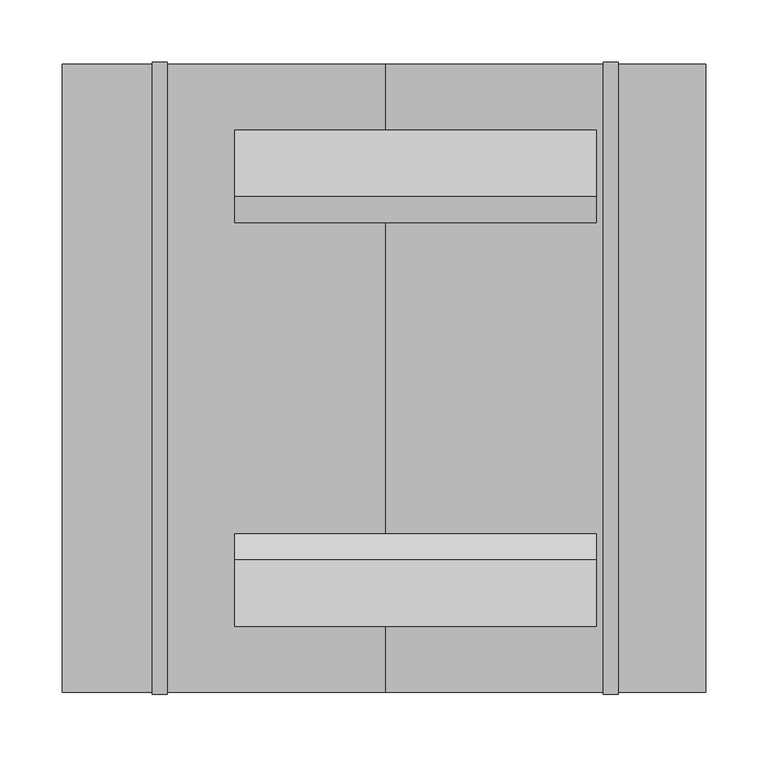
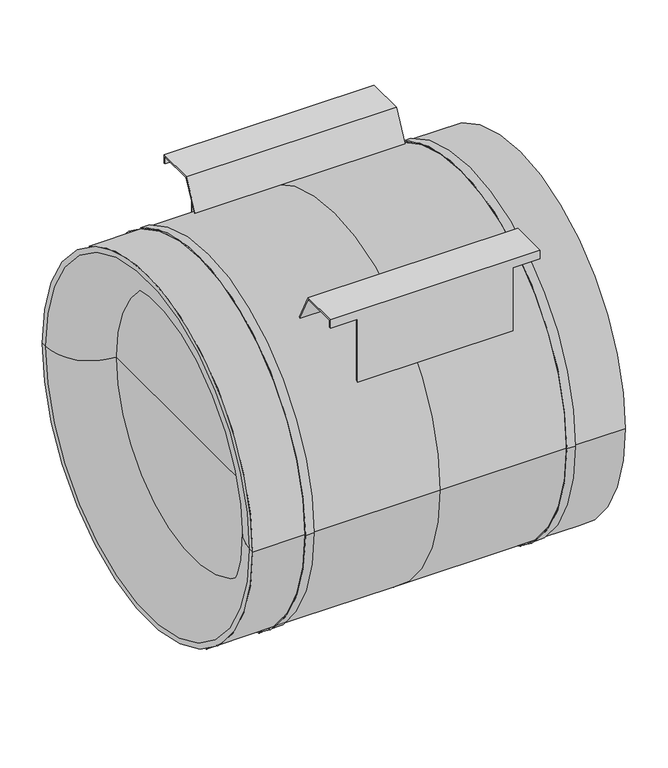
"""IFC4 building model written with IfcOpenShell, lengths in millimetres: unitary equipment geometry, VE-Wentylator-ParaForma-Harmann-JETTEC-Nawiewny : 500/9900F."""

from ifc_helpers import new_model, si_unit, point, frame, frame_2d, origin, place, context, project, spatial, polyline, circle_curve, ellipse_curve, trimmed, segment, composite_curve, outline, extrude, source, transform, mapped, element, save
from ifc_brep_helpers import plane_surface, cylinder_surface, revolved_surface, advanced_brep


def unitary_equipment_a40bd1b7(model_context):
    return source(origin(), model_context, "Body", "SolidModel", [
        extrude(outline(composite_curve([segment(polyline([(-45.5, -47.7), (-45.5, 47.7)]), True, "CONTINUOUS"), segment(trimmed(circle_curve(frame_2d((-40.5, 47.7)), 5.0), [point((-45.5, 47.7))], [point((-40.5, 52.7))], False, "CARTESIAN"), True, "CONTINUOUS"), segment(polyline([(-40.5, 52.7), (40.5, 52.7)]), True, "CONTINUOUS"), segment(trimmed(circle_curve(frame_2d((40.5, 47.7)), 5.0), [point((40.5, 52.7))], [point((45.5, 47.7))], False, "CARTESIAN"), True, "CONTINUOUS"), segment(polyline([(45.5, 47.7), (45.5, -47.7)]), True, "CONTINUOUS"), segment(trimmed(circle_curve(frame_2d((40.5, -47.7)), 5.0), [point((45.5, -47.7))], [point((40.5, -52.7))], False, "CARTESIAN"), True, "CONTINUOUS"), segment(polyline([(40.5, -52.7), (-40.5, -52.7)]), True, "CONTINUOUS"), segment(trimmed(circle_curve(frame_2d((-40.5, -47.7)), 5.0), [point((-40.5, -52.7))], [point((-45.5, -47.7))], False, "CARTESIAN"), True, "CONTINUOUS")], self_intersect=False)), frame((0.0, -55.0, 0.0), z_axis=(0.0, 1.0, 0.0), x_axis=(0.0, 0.0, 1.0)), (0.0, 0.0, 1.0), 45.0),
        advanced_brep(
        [(169.3, 198.9, 246.9), (169.3, 198.9, 258.9), (169.3, 145.6, 258.9), (169.3, 124.9125411, 218.6899165), (169.3, 126.647231, 217.6899202), (169.3, 146.8202037, 256.9), (169.3, 196.9, 256.9), (169.3, 196.9, 246.9), (131.8, 196.9, 246.9), (131.8, 198.9, 246.9), (-120.7, 196.9, 256.9), (-120.7, 196.9, 246.9), (-83.2, 196.9, 246.9), (-83.2, 196.9, 157.0312469), (131.8, 196.9, 157.0312469), (-120.7, 146.8202037, 256.9), (131.8, 126.647231, 217.6899202), (-83.2, 126.647231, 217.6899202), (-120.7, 126.647231, 217.6899202), (-120.7, 145.6, 258.9), (-120.7, 124.9125411, 218.6899165), (-83.2, 124.9125411, 218.6899165), (131.8, 124.9125411, 218.6899165), (-120.7, 198.9, 258.9), (131.8, 198.9, 154.4901696), (-83.2, 198.9, 154.4901696), (-83.2, 198.9, 246.9), (-120.7, 198.9, 246.9)],
        [
            (0, 1),
            (1, 2),
            (2, 3),
            (3, 4, circle_curve(frame((169.3, 0.0, 0.0), z_axis=(-1.0, 0.0, 0.0), x_axis=(0.0, 1.0, 0.0)), 251.85)),
            (4, 5),
            (5, 6),
            (6, 7),
            (7, 0),
            (7, 8),
            (8, 9),
            (9, 0),
            (6, 10),
            (10, 11),
            (11, 12),
            (12, 13),
            (13, 14),
            (14, 8),
            (5, 15),
            (15, 10),
            (4, 16),
            (16, 17),
            (17, 18),
            (18, 15),
            (19, 20),
            (20, 21),
            (21, 22),
            (22, 3),
            (2, 19),
            (1, 23),
            (23, 19),
            (9, 24),
            (24, 25),
            (25, 26),
            (26, 27),
            (27, 23),
            (20, 18, circle_curve(frame((-120.7, 0.0, 0.0), z_axis=(-1.0, 0.0, 0.0), x_axis=(0.0, 1.0, 0.0)), 251.85)),
            (17, 21, circle_curve(frame((-83.2, 0.0, 0.0), z_axis=(1.0, 0.0, 0.0), x_axis=(0.0, 1.0, 0.0)), 251.85)),
            (22, 16, circle_curve(frame((131.8, 0.0, 0.0), z_axis=(-1.0, 0.0, 0.0), x_axis=(0.0, 1.0, 0.0)), 251.85)),
            (25, 13, circle_curve(frame((-83.2, 0.0, 0.0), z_axis=(1.0, 0.0, 0.0), x_axis=(0.0, 1.0, 0.0)), 251.85)),
            (12, 26),
            (14, 24, circle_curve(frame((131.8, 0.0, 0.0), z_axis=(-1.0, 0.0, 0.0), x_axis=(0.0, 1.0, 0.0)), 251.85)),
            (27, 11),
        ],
        [
            plane_surface(frame((169.3, 0.0, 0.0), z_axis=(1.0, 0.0, 0.0), x_axis=(0.0, 0.0, 1.0))),
            plane_surface(frame((131.8, 198.9, 246.9), z_axis=(0.0, 0.0, -1.0), x_axis=(1.0, 0.0, 0.0))),
            plane_surface(frame((131.8, 196.9, 246.9), z_axis=(0.0, -1.0, 0.0), x_axis=(1.0, 0.0, 0.0))),
            plane_surface(frame((131.8, 196.9, 256.9), z_axis=(0.0, 0.0, -1.0), x_axis=(1.0, 0.0, 0.0))),
            plane_surface(frame((131.8, 146.8202037, 256.9), z_axis=(0.0, 0.8892159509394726, -0.45748769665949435), x_axis=(1.0, 0.0, 0.0))),
            plane_surface(frame((131.8, 12.4, 0.0), z_axis=(0.0, -0.8892159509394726, 0.4574876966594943), x_axis=(1.0, 0.0, 0.0))),
            plane_surface(frame((131.8, 145.6, 258.9), z_axis=(0.0, 0.0, 1.0), x_axis=(1.0, 0.0, 0.0))),
            plane_surface(frame((131.8, 198.9, 258.9), z_axis=(0.0, 1.0, 0.0), x_axis=(1.0, 0.0, 0.0))),
            revolved_surface(polyline([(-120.7, 251.85, 0.0), (-83.2, 251.85, 0.0)]), (-120.7, 0.0, 0.0), (-1.0, 0.0, 0.0)),
            revolved_surface(polyline([(131.8, 251.85, 0.0), (169.3, 251.85, 0.0)]), (131.8, 0.0, 0.0), (-1.0, 0.0, 0.0)),
            plane_surface(frame((-83.2, 0.0, 0.0), z_axis=(-1.0, 0.0, 0.0), x_axis=(0.0, 0.0, 1.0))),
            plane_surface(frame((131.8, 0.0, 0.0), z_axis=(1.0, 0.0, 0.0), x_axis=(0.0, 0.0, 1.0))),
            revolved_surface(polyline([(-83.2, 251.85, 0.0), (131.8, 251.85, 0.0)]), (-83.2, 0.0, 0.0), (-1.0, 0.0, 0.0)),
            plane_surface(frame((-120.7, 0.0, 0.0), z_axis=(-1.0, 0.0, 0.0), x_axis=(0.0, 0.0, 1.0))),
            plane_surface(frame((-120.7, 198.9, 246.9), z_axis=(0.0, 0.0, -1.0), x_axis=(1.0, 0.0, 0.0))),
        ],
        [
            (0, [[1, 2, 3, 4, 5, 6, 7, 8]]),
            (1, [[-8, 9, 10, 11]]),
            (2, [[-7, 12, 13, 14, 15, 16, 17, -9]]),
            (3, [[-12, -6, 18, 19]]),
            (4, [[-18, -5, 20, 21, 22, 23]]),
            (5, [[24, 25, 26, 27, -3, 28]]),
            (6, [[-28, -2, 29, 30]]),
            (7, [[-29, -1, -11, 31, 32, 33, 34, 35]]),
            (8, [[36, -22, 37, -25]]),
            (9, [[-4, -27, 38, -20]]),
            (10, [[39, -15, 40, -33]]),
            (11, [[41, -31, -10, -17]]),
            (12, [[-21, -38, -26, -37]]),
            (12, [[-39, -32, -41, -16]]),
            (13, [[42, -13, -19, -23, -36, -24, -30, -35]]),
            (14, [[-42, -34, -40, -14]]),
        ],
    ),
        advanced_brep(
        [(169.3, -145.6, 258.9), (169.3, -198.9, 258.9), (169.3, -198.9, 246.9), (169.3, -196.9, 246.9), (169.3, -196.9, 256.9), (169.3, -146.8202037, 256.9), (169.3, -126.647231, 217.6899202), (169.3, -124.9125411, 218.6899165), (-120.7, -146.8202037, 256.9), (-120.7, -126.647231, 217.6899202), (-83.2, -126.647231, 217.6899202), (131.8, -126.647231, 217.6899202), (-120.7, -196.9, 256.9), (131.8, -196.9, 246.9), (131.8, -196.9, 157.0312469), (-83.2, -196.9, 157.0312469), (-83.2, -196.9, 246.9), (-120.7, -196.9, 246.9), (131.8, -198.9, 246.9), (-120.7, -198.9, 258.9), (-120.7, -198.9, 246.9), (-83.2, -198.9, 246.9), (-83.2, -198.9, 154.4901696), (131.8, -198.9, 154.4901696), (-120.7, -145.6, 258.9), (131.8, -124.9125411, 218.6899165), (-83.2, -124.9125411, 218.6899165), (-120.7, -124.9125411, 218.6899165)],
        [
            (0, 1),
            (1, 2),
            (2, 3),
            (3, 4),
            (4, 5),
            (5, 6),
            (6, 7, circle_curve(frame((169.3, 0.0, 0.0), z_axis=(-1.0, 0.0, 0.0), x_axis=(0.0, 1.0, 0.0)), 251.85)),
            (7, 0),
            (8, 9),
            (9, 10),
            (10, 11),
            (11, 6),
            (5, 8),
            (4, 12),
            (12, 8),
            (3, 13),
            (13, 14),
            (14, 15),
            (15, 16),
            (16, 17),
            (17, 12),
            (2, 18),
            (18, 13),
            (1, 19),
            (19, 20),
            (20, 21),
            (21, 22),
            (22, 23),
            (23, 18),
            (0, 24),
            (24, 19),
            (7, 25),
            (25, 26),
            (26, 27),
            (27, 24),
            (9, 27, circle_curve(frame((-120.7, 0.0, 0.0), z_axis=(-1.0, 0.0, 0.0), x_axis=(0.0, 1.0, 0.0)), 251.85)),
            (26, 10, circle_curve(frame((-83.2, 0.0, 0.0), z_axis=(1.0, 0.0, 0.0), x_axis=(0.0, 1.0, 0.0)), 251.85)),
            (11, 25, circle_curve(frame((131.8, 0.0, 0.0), z_axis=(-1.0, 0.0, 0.0), x_axis=(0.0, 1.0, 0.0)), 251.85)),
            (15, 22, circle_curve(frame((-83.2, 0.0, 0.0), z_axis=(1.0, 0.0, 0.0), x_axis=(0.0, 1.0, 0.0)), 251.85)),
            (21, 16),
            (23, 14, circle_curve(frame((131.8, 0.0, 0.0), z_axis=(-1.0, 0.0, 0.0), x_axis=(0.0, 1.0, 0.0)), 251.85)),
            (17, 20),
        ],
        [
            plane_surface(frame((169.3, 0.0, 0.0), z_axis=(1.0, 0.0, 0.0), x_axis=(0.0, 0.0, 1.0))),
            plane_surface(frame((131.8, -13.6202037, -2.0), z_axis=(0.0, -0.8892159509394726, -0.45748769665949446), x_axis=(1.0, 0.0, 0.0))),
            plane_surface(frame((131.8, -146.8202037, 256.9), z_axis=(0.0, 0.0, -1.0), x_axis=(1.0, 0.0, 0.0))),
            plane_surface(frame((131.8, -196.9, 256.9), z_axis=(0.0, 1.0, 0.0), x_axis=(1.0, 0.0, 0.0))),
            plane_surface(frame((131.8, -196.9, 246.9), z_axis=(0.0, 0.0, -1.0), x_axis=(1.0, 0.0, 0.0))),
            plane_surface(frame((131.8, -198.9, 246.9), z_axis=(0.0, -1.0, 0.0), x_axis=(1.0, 0.0, 0.0))),
            plane_surface(frame((131.8, -198.9, 258.9), z_axis=(0.0, 0.0, 1.0), x_axis=(1.0, 0.0, 0.0))),
            plane_surface(frame((131.8, -145.6, 258.9), z_axis=(0.0, 0.8892159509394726, 0.45748769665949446), x_axis=(1.0, 0.0, 0.0))),
            revolved_surface(polyline([(-120.7, 251.85, 0.0), (-83.2, 251.85, 0.0)]), (-120.7, 0.0, 0.0), (-1.0, 0.0, 0.0)),
            revolved_surface(polyline([(131.8, 251.85, 0.0), (169.3, 251.85, 0.0)]), (131.8, 0.0, 0.0), (-1.0, 0.0, 0.0)),
            plane_surface(frame((-83.2, 0.0, 0.0), z_axis=(-1.0, 0.0, 0.0), x_axis=(0.0, 0.0, 1.0))),
            plane_surface(frame((131.8, 0.0, 0.0), z_axis=(1.0, 0.0, 0.0), x_axis=(0.0, 0.0, 1.0))),
            revolved_surface(polyline([(-83.2, 251.85, 0.0), (131.8, 251.85, 0.0)]), (-83.2, 0.0, 0.0), (-1.0, 0.0, 0.0)),
            plane_surface(frame((-120.7, 0.0, 0.0), z_axis=(-1.0, 0.0, 0.0), x_axis=(0.0, 0.0, 1.0))),
            plane_surface(frame((-120.7, -196.9, 246.9), z_axis=(0.0, 0.0, -1.0), x_axis=(1.0, 0.0, 0.0))),
        ],
        [
            (0, [[1, 2, 3, 4, 5, 6, 7, 8]]),
            (1, [[9, 10, 11, 12, -6, 13]]),
            (2, [[-13, -5, 14, 15]]),
            (3, [[-14, -4, 16, 17, 18, 19, 20, 21]]),
            (4, [[-3, 22, 23, -16]]),
            (5, [[-2, 24, 25, 26, 27, 28, 29, -22]]),
            (6, [[-24, -1, 30, 31]]),
            (7, [[-30, -8, 32, 33, 34, 35]]),
            (8, [[36, -34, 37, -10]]),
            (9, [[-7, -12, 38, -32]]),
            (10, [[39, -27, 40, -19]]),
            (11, [[41, -17, -23, -29]]),
            (12, [[-11, -37, -33, -38]]),
            (12, [[-39, -18, -41, -28]]),
            (13, [[-15, -21, 42, -25, -31, -35, -36, -9]]),
            (14, [[-42, -20, -40, -26]]),
        ],
    ),
        advanced_brep(
        [(-174.8, 251.9, 0.0), (0.0, 251.9, 0.0), (0.0, -251.9, 0.0), (-174.8, -251.9, 0.0), (-258.8, -251.9, 0.0), (-258.8, 251.9, 0.0), (-186.8, 251.9, 0.0), (-186.8, -251.9, 0.0), (-258.8, -244.5, 0.0), (-258.8, 244.5, 0.0), (-196.8, -182.5, 0.0), (-196.8, 182.5, 0.0), (-196.8, 0.0, 0.0), (256.8, -251.9, 0.0), (256.8, 251.9, 0.0), (256.8, 0.0, 0.0), (186.8, -251.9, 0.0), (186.8, 251.9, 0.0), (174.8, 251.9, 0.0), (174.8, -251.9, 0.0), (-174.8, -253.4, 0.0), (-174.8, 253.4, 0.0), (-186.8, -253.4, 0.0), (-186.8, 253.4, 0.0), (186.8, -253.4, 0.0), (186.8, 253.4, 0.0), (174.8, -253.4, 0.0), (174.8, 253.4, 0.0)],
        [
            (0, 1),
            (1, 2, circle_curve(frame((0.0, 0.0, 0.0), z_axis=(-1.0, 0.0, 0.0), x_axis=(0.0, 1.0, 0.0)), 251.9)),
            (2, 3),
            (3, 0, circle_curve(frame((-174.8, 0.0, 0.0), z_axis=(1.0, 0.0, 0.0), x_axis=(0.0, 1.0, 0.0)), 251.9)),
            (0, 3, circle_curve(frame((-174.8, 0.0, 0.0), z_axis=(1.0, 0.0, 0.0), x_axis=(0.0, 1.0, 0.0)), 251.9)),
            (2, 1, circle_curve(frame((0.0, 0.0, 0.0), z_axis=(-1.0, 0.0, 0.0), x_axis=(0.0, 1.0, 0.0)), 251.9)),
            (4, 5, circle_curve(frame((-258.8, 0.0, 0.0), z_axis=(1.0, 0.0, 0.0), x_axis=(0.0, 1.0, 0.0)), 251.9)),
            (5, 6),
            (6, 7, circle_curve(frame((-186.8, 0.0, 0.0), z_axis=(-1.0, 0.0, 0.0), x_axis=(0.0, 1.0, 0.0)), 251.9)),
            (7, 4),
            (5, 4, circle_curve(frame((-258.8, 0.0, 0.0), z_axis=(1.0, 0.0, 0.0), x_axis=(0.0, 1.0, 0.0)), 251.9)),
            (7, 6, circle_curve(frame((-186.8, 0.0, 0.0), z_axis=(-1.0, 0.0, 0.0), x_axis=(0.0, 1.0, 0.0)), 251.9)),
            (4, 8),
            (8, 9, circle_curve(frame((-258.8, 0.0, 0.0), z_axis=(1.0, 0.0, 0.0), x_axis=(0.0, 1.0, 0.0)), 244.5)),
            (9, 5),
            (9, 8, circle_curve(frame((-258.8, 0.0, 0.0), z_axis=(1.0, 0.0, 0.0), x_axis=(0.0, 1.0, 0.0)), 244.5)),
            (8, 10, circle_curve(frame((-196.8, -244.5, 0.0), z_axis=(0.0, 0.0, -1.0), x_axis=(1.0, 0.0, 0.0)), 62.0)),
            (10, 11, circle_curve(frame((-196.8, 0.0, 0.0), z_axis=(1.0, 0.0, 0.0), x_axis=(0.0, 1.0, 0.0)), 182.5)),
            (11, 9, circle_curve(frame((-196.8, 244.5, 0.0), z_axis=(0.0, 0.0, -1.0), x_axis=(1.0, 0.0, 0.0)), 62.0)),
            (11, 10, circle_curve(frame((-196.8, 0.0, 0.0), z_axis=(1.0, 0.0, 0.0), x_axis=(0.0, 1.0, 0.0)), 182.5)),
            (10, 12),
            (12, 11),
            (13, 14, circle_curve(frame((256.8, 0.0, 0.0), z_axis=(1.0, 0.0, 0.0), x_axis=(0.0, 1.0, 0.0)), 251.9)),
            (14, 15),
            (15, 13),
            (14, 13, circle_curve(frame((256.8, 0.0, 0.0), z_axis=(1.0, 0.0, 0.0), x_axis=(0.0, 1.0, 0.0)), 251.9)),
            (13, 16),
            (16, 17, circle_curve(frame((186.8, 0.0, 0.0), z_axis=(1.0, 0.0, 0.0), x_axis=(0.0, 1.0, 0.0)), 251.9)),
            (17, 14),
            (17, 16, circle_curve(frame((186.8, 0.0, 0.0), z_axis=(1.0, 0.0, 0.0), x_axis=(0.0, 1.0, 0.0)), 251.9)),
            (1, 18),
            (18, 19, circle_curve(frame((174.8, 0.0, 0.0), z_axis=(-1.0, 0.0, 0.0), x_axis=(0.0, 1.0, 0.0)), 251.9)),
            (19, 2),
            (19, 18, circle_curve(frame((174.8, 0.0, 0.0), z_axis=(-1.0, 0.0, 0.0), x_axis=(0.0, 1.0, 0.0)), 251.9)),
            (20, 21, circle_curve(frame((-174.8, 0.0, 0.0), z_axis=(1.0, 0.0, 0.0), x_axis=(0.0, 1.0, 0.0)), 253.4)),
            (21, 0),
            (3, 20),
            (21, 20, circle_curve(frame((-174.8, 0.0, 0.0), z_axis=(1.0, 0.0, 0.0), x_axis=(0.0, 1.0, 0.0)), 253.4)),
            (20, 22),
            (22, 23, circle_curve(frame((-186.8, 0.0, 0.0), z_axis=(1.0, 0.0, 0.0), x_axis=(0.0, 1.0, 0.0)), 253.4)),
            (23, 21),
            (23, 22, circle_curve(frame((-186.8, 0.0, 0.0), z_axis=(1.0, 0.0, 0.0), x_axis=(0.0, 1.0, 0.0)), 253.4)),
            (22, 7),
            (6, 23),
            (24, 25, circle_curve(frame((186.8, 0.0, 0.0), z_axis=(1.0, 0.0, 0.0), x_axis=(0.0, 1.0, 0.0)), 253.4)),
            (25, 17),
            (16, 24),
            (25, 24, circle_curve(frame((186.8, 0.0, 0.0), z_axis=(1.0, 0.0, 0.0), x_axis=(0.0, 1.0, 0.0)), 253.4)),
            (24, 26),
            (26, 27, circle_curve(frame((174.8, 0.0, 0.0), z_axis=(1.0, 0.0, 0.0), x_axis=(0.0, 1.0, 0.0)), 253.4)),
            (27, 25),
            (27, 26, circle_curve(frame((174.8, 0.0, 0.0), z_axis=(1.0, 0.0, 0.0), x_axis=(0.0, 1.0, 0.0)), 253.4)),
            (26, 19),
            (18, 27),
        ],
        [
            cylinder_surface(frame((-196.8, 0.0, 0.0), z_axis=(-1.0, 0.0, 0.0), x_axis=(0.0, 1.0, 0.0)), 251.9),
            plane_surface(frame((-258.8, 0.0, 0.0), z_axis=(-1.0, 0.0, 0.0), x_axis=(0.0, 1.0, 0.0))),
            revolved_surface(trimmed(ellipse_curve(frame((-196.8, 244.5, 0.0), z_axis=(0.0, 0.0, 1.0), x_axis=(1.0, 0.0, 0.0)), 62.0, 62.0), [point((-258.8, 244.5, 0.0))], [point((-196.8, 182.5, 0.0))], True, "CARTESIAN"), (-196.8, 0.0, 0.0), (-1.0, 0.0, 0.0)),
            plane_surface(frame((-196.8, 0.0, 0.0), z_axis=(-1.0, 0.0, 0.0), x_axis=(0.0, 1.0, 0.0))),
            plane_surface(frame((256.8, 0.0, 0.0), z_axis=(1.0, 0.0, 0.0), x_axis=(0.0, 1.0, 0.0))),
            cylinder_surface(frame((0.0, 0.0, 0.0), z_axis=(-1.0, 0.0, 0.0), x_axis=(0.0, 1.0, 0.0)), 251.9),
            plane_surface(frame((-174.8, 0.0, 0.0), z_axis=(1.0, 0.0, 0.0), x_axis=(0.0, 1.0, 0.0))),
            cylinder_surface(frame((-186.8, 0.0, 0.0), z_axis=(-1.0, 0.0, 0.0), x_axis=(0.0, 1.0, 0.0)), 253.4),
            plane_surface(frame((-186.8, 0.0, 0.0), z_axis=(-1.0, 0.0, 0.0), x_axis=(0.0, 1.0, 0.0))),
            plane_surface(frame((186.8, 0.0, 0.0), z_axis=(1.0, 0.0, 0.0), x_axis=(0.0, 1.0, 0.0))),
            plane_surface(frame((174.8, 0.0, 0.0), z_axis=(-1.0, 0.0, 0.0), x_axis=(0.0, 1.0, 0.0))),
        ],
        [
            (0, [[1, 2, 3, 4]]),
            (0, [[-1, 5, -3, 6]]),
            (0, [[7, 8, 9, 10]]),
            (0, [[-8, 11, -10, 12]]),
            (1, [[-7, 13, 14, 15]]),
            (1, [[-11, -15, 16, -13]]),
            (2, [[-14, 17, 18, 19]]),
            (2, [[-16, -19, 20, -17]]),
            (3, [[-18, 21, 22]]),
            (3, [[-20, -22, -21]]),
            (4, [[23, 24, 25]]),
            (4, [[-24, 26, -25]]),
            (5, [[-23, 27, 28, 29]]),
            (5, [[-26, -29, 30, -27]]),
            (5, [[31, 32, 33, -2]]),
            (5, [[-31, -6, -33, 34]]),
            (6, [[35, 36, -4, 37]]),
            (6, [[38, -37, -5, -36]]),
            (7, [[-35, 39, 40, 41]]),
            (7, [[-38, -41, 42, -39]]),
            (8, [[-40, 43, -9, 44]]),
            (8, [[-42, -44, -12, -43]]),
            (9, [[45, 46, -28, 47]]),
            (9, [[48, -47, -30, -46]]),
            (7, [[-45, 49, 50, 51]]),
            (7, [[-48, -51, 52, -49]]),
            (10, [[-50, 53, -32, 54]]),
            (10, [[-52, -54, -34, -53]]),
        ],
    ),
    ])


if __name__ == "__main__":
    model = new_model("IFC4")
    model_context = context("Model", 3, world=origin())
    ifc_project = project(units=[si_unit("LENGTHUNIT", "METRE", prefix="MILLI")], contexts=[model_context])
    site = spatial("IfcSite", under=ifc_project)
    building = spatial("IfcBuilding", under=site)
    placement = place(None, origin())
    unitary_equipment_shape = unitary_equipment_a40bd1b7(model_context)
    element("IfcUnitaryEquipment", 1, ObjectType="VE-Wentylator-ParaForma-Harmann-JETTEC-Nawiewny : 500/9900F", at=placement, inside=building, context=model_context, shape_type="MappedRepresentation", body=[
        mapped(unitary_equipment_shape, transform((0.0, 0.0, 0.0), x_axis=(1.0, 0.0, 0.0), y_axis=(0.0, 1.0, 0.0), z_axis=(0.0, 0.0, 1.0))),
    ])
    save(model, "model.ifc")
